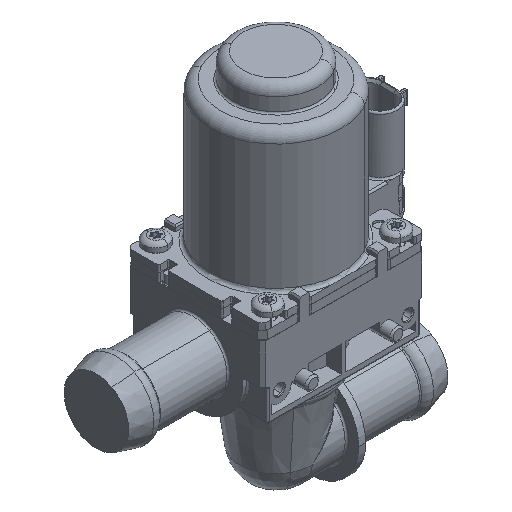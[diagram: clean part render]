
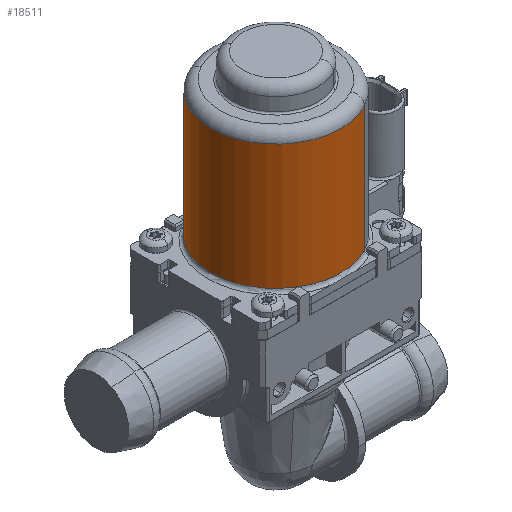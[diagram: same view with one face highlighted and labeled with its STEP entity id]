
A CAD part, isometric view. The second image highlights one B-rep face of the part: STEP entity #18511.
In plain terms, the highlighted cylindrical face has radius 19.25 mm (diameter 38.5 mm), a partial arc.
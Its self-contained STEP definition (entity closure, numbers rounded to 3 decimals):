
#18447=AXIS2_PLACEMENT_3D('Circle Axis2P3D',#18445,#18446,$) ;
#18484=AXIS2_PLACEMENT_3D('Cylinder Axis2P3D',#18481,#18482,#18483) ;
#18495=AXIS2_PLACEMENT_3D('Circle Axis2P3D',#18493,#18494,$) ;
#18442=CARTESIAN_POINT('Vertex',(-9.229,16.893,64.05)) ;
#18445=CARTESIAN_POINT('Axis2P3D Location',(0.,0.,64.05)) ;
#18449=CARTESIAN_POINT('Vertex',(9.229,-16.893,64.05)) ;
#18481=CARTESIAN_POINT('Axis2P3D Location',(0.,0.,49.2)) ;
#18486=CARTESIAN_POINT('Line Origine',(-9.229,16.893,45.625)) ;
#18490=CARTESIAN_POINT('Vertex',(-9.229,16.893,27.2)) ;
#18493=CARTESIAN_POINT('Axis2P3D Location',(0.,0.,27.2)) ;
#18497=CARTESIAN_POINT('Vertex',(9.229,-16.893,27.2)) ;
#18500=CARTESIAN_POINT('Line Origine',(9.229,-16.893,45.625)) ;
#18446=DIRECTION('Axis2P3D Direction',(0.,0.,1.)) ;
#18482=DIRECTION('Axis2P3D Direction',(0.,0.,1.)) ;
#18483=DIRECTION('Axis2P3D XDirection',(-0.479,0.878,0.)) ;
#18487=DIRECTION('Vector Direction',(0.,0.,1.)) ;
#18494=DIRECTION('Axis2P3D Direction',(0.,0.,1.)) ;
#18501=DIRECTION('Vector Direction',(0.,0.,1.)) ;
#18488=VECTOR('Line Direction',#18487,1.) ;
#18502=VECTOR('Line Direction',#18501,1.) ;
#18506=ORIENTED_EDGE('',*,*,#18492,.F.) ;
#18507=ORIENTED_EDGE('',*,*,#18499,.F.) ;
#18508=ORIENTED_EDGE('',*,*,#18504,.T.) ;
#18509=ORIENTED_EDGE('',*,*,#18451,.F.) ;
#18511=ADVANCED_FACE('Polgehaeuse',(#18510),#18485,.T.) ;
#18448=CIRCLE('generated circle',#18447,19.25) ;
#18496=CIRCLE('generated circle',#18495,19.25) ;
#18485=CYLINDRICAL_SURFACE('generated cylinder',#18484,19.25) ;
#18451=EDGE_CURVE('',#18443,#18450,#18448,.T.) ;
#18492=EDGE_CURVE('',#18491,#18443,#18489,.T.) ;
#18499=EDGE_CURVE('',#18498,#18491,#18496,.F.) ;
#18504=EDGE_CURVE('',#18498,#18450,#18503,.T.) ;
#18505=EDGE_LOOP('',(#18506,#18507,#18508,#18509)) ;
#18510=FACE_OUTER_BOUND('',#18505,.T.) ;
#18489=LINE('Line',#18486,#18488) ;
#18503=LINE('Line',#18500,#18502) ;
#18443=VERTEX_POINT('',#18442) ;
#18450=VERTEX_POINT('',#18449) ;
#18491=VERTEX_POINT('',#18490) ;
#18498=VERTEX_POINT('',#18497) ;
